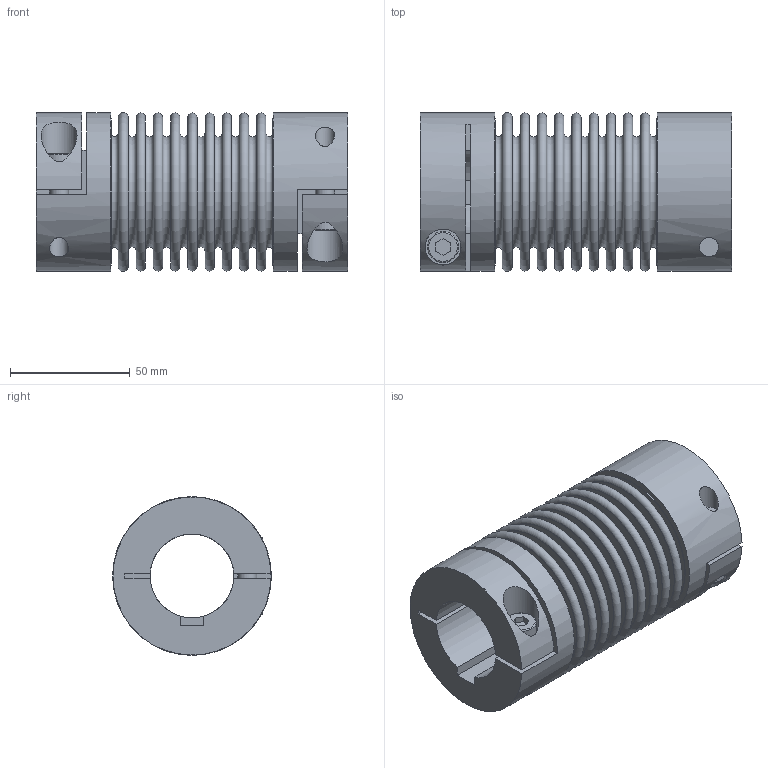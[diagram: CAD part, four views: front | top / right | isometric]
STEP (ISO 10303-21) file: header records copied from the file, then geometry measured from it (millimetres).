
FILE_DESCRIPTION(/* description */ ('STEP AP214'),/* implementation_level */ '2;1');
FILE_NAME(/* name */ 'C:\Diequa Files\DieQua Coupling\Website Step Files\BC.60.130.#.#.stp',/* time_stamp */ '2018-10-25T16:20:49-05:00',/* author */ ('DiequaCAD'),/* organization */ (''),/* preprocessor_version */ 'ST-DEVELOPER v17.2',/* originating_system */ 'Autodesk Inventor 2019',/* authorisation */ ' ');
FILE_SCHEMA (('AUTOMOTIVE_DESIGN { 1 0 10303 214 3 1 1 }'));
Length unit declared in the file: millimetre
Products named in the file (1): BC2.60.130.#.#
Bounding box: 130 x 66.33 x 66.33 mm (x, y, z)
Volume: 149901.1 mm3; surface area: 116233.9 mm2
Topology: 1 solids, 1 shells, 141 faces, 355 edges, 262 vertices
Faces by surface type: plane 84, torus 40, cylinder 17
Full cylindrical faces by diameter (mm): 8 x4, 13 x2, 15 x2, 49.065 x1, 61 x2, 66 x2
Entity records: 4684 total; most frequent: CARTESIAN_POINT 922, DIRECTION 863, ORIENTED_EDGE 710, AXIS2_PLACEMENT_3D 376, EDGE_CURVE 355, VERTEX_POINT 262, CIRCLE 234, EDGE_LOOP 197
